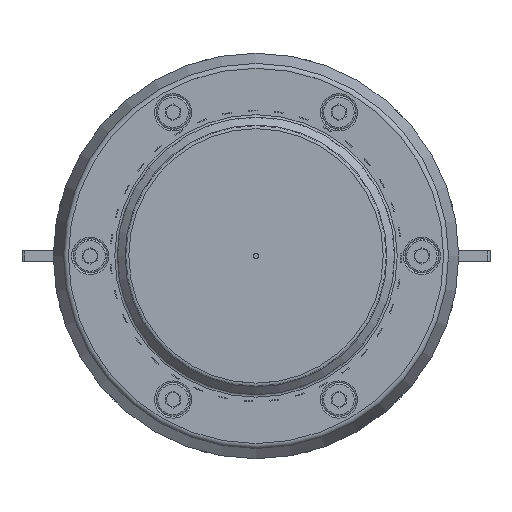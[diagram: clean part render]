
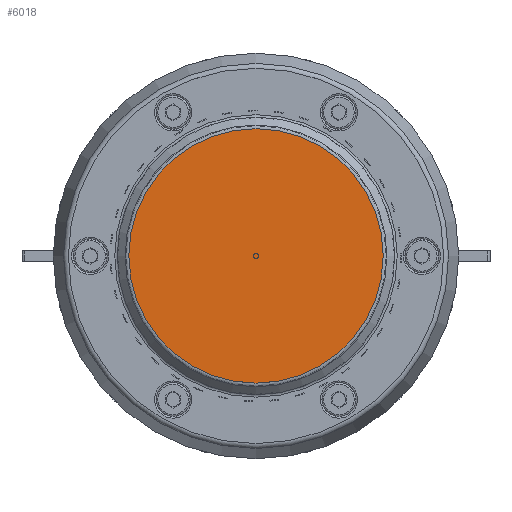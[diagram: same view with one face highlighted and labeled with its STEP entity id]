
A CAD part, top view. The second image highlights one B-rep face of the part: STEP entity #6018.
In plain terms, the highlighted planar face has unit normal (0, 0, 1).
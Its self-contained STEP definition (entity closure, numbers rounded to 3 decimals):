
#6018=ADVANCED_FACE('',(#20925),#20927,.T.);
#20925=FACE_BOUND('',#20926,.T.);
#20926=EDGE_LOOP('',(#92871));
#20927=PLANE('',#20928);
#20928=AXIS2_PLACEMENT_3D('',#20929,#20930,#20931);
#20929=CARTESIAN_POINT('',(0.,0.,0.));
#20930=DIRECTION('',(0.,0.,1.));
#20931=DIRECTION('',(-1.,0.,0.));
#92871=ORIENTED_EDGE('',*,*,#99269,.F.);
#99269=EDGE_CURVE('',#105814,#105814,#105815,.T.);
#105814=VERTEX_POINT('',#140684);
#105815=CIRCLE('',#140685,146.515);
#140684=CARTESIAN_POINT('',(-146.515,0.,0.));
#140685=AXIS2_PLACEMENT_3D('',#140686,#140687,#140688);
#140686=CARTESIAN_POINT('',(0.,0.,0.));
#140687=DIRECTION('',(0.,0.,-1.));
#140688=DIRECTION('',(-1.,0.,0.));
